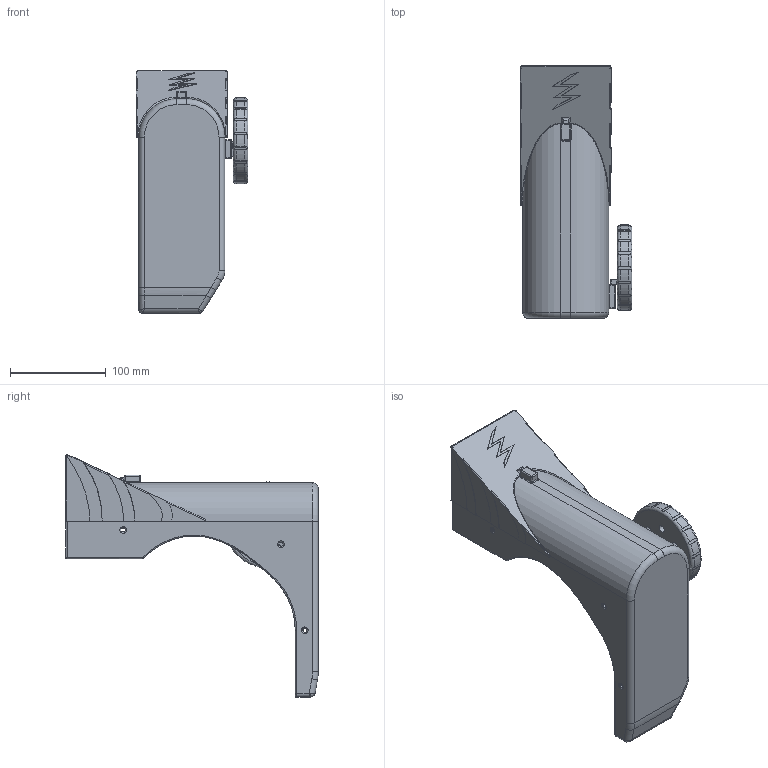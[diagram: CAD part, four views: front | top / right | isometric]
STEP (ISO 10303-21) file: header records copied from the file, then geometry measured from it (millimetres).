
FILE_DESCRIPTION(/* description */ (''),/* implementation_level */ '2;1');
FILE_NAME(/* name */ 'C:\Users\Putra Aji Pangestu\Documents\4. Data Kuliah S2\Thesis Magister\Paper Proposal & Thesis\Data Design\Trial Scan\Trial 2\Assembly AFO Final.stp',/* time_stamp */ '2025-06-19T21:24:34+07:00',/* author */ ('Putra Aji Pangestu'),/* organization */ (''),/* preprocessor_version */ 'ST-DEVELOPER v15.6',/* originating_system */ 'Autodesk Inventor 2015',/* authorisation */ '');
FILE_SCHEMA (('AUTOMOTIVE_DESIGN { 1 0 10303 214 3 1 1 }'));
Length unit declared in the file: millimetre
Products named in the file (4): New AFO Design 2; Accecoris Tire; Accecoris Wings; Assembly AFO Final
Bounding box: 116.5 x 264 x 253.61 mm (x, y, z)
Volume: 1050169.1 mm3; surface area: 202603.9 mm2
Topology: 3 solids, 3 shells, 513 faces, 1305 edges, 794 vertices
Faces by surface type: plane 162, bspline 152, cylinder 143, torus 42, sphere 14
Full cylindrical faces by diameter (mm): 5 x3, 7.5 x6, 60 x1
Entity records: 23365 total; most frequent: CARTESIAN_POINT 12094, ORIENTED_EDGE 2544, DIRECTION 1955, EDGE_CURVE 1272, VERTEX_POINT 786, AXIS2_PLACEMENT_3D 757, EDGE_LOOP 558, FACE_OUTER_BOUND 513
